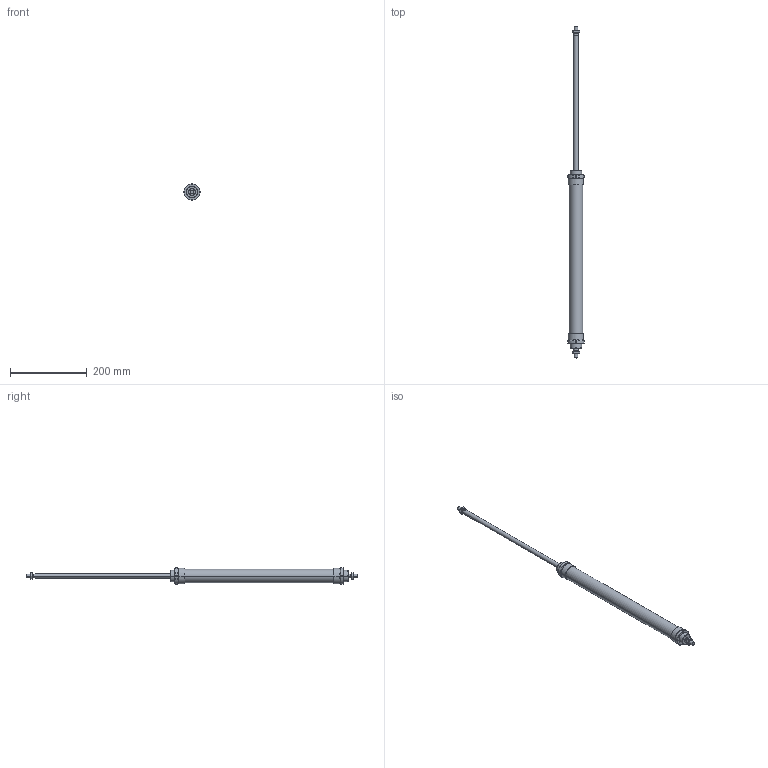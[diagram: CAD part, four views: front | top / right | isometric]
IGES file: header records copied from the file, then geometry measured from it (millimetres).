
Global section: file name: No Iges File Name specified; native system: AutoDesk Inventor R6.0; preprocessor: AutoDesk Inventor Iges Exporter R6.0; author: No Author specified; organization: No Organization specified; date: 20030403.072722; units: millimetre
Bounding box: 41.7 x 865 x 41.7 mm (x, y, z)
Volume: 520439.2 mm3; surface area: 113117.3 mm2
Topology: 6 solids, 6 shells, 182 faces, 424 edges, 264 vertices
Faces by surface type: plane 66, cone 52, bspline 30, cylinder 28, revolution 6
